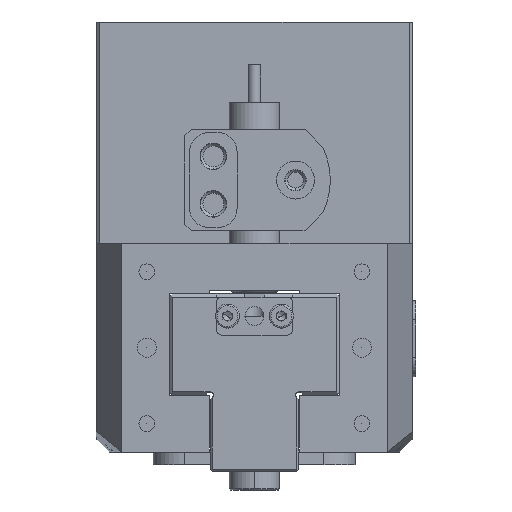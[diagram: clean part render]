
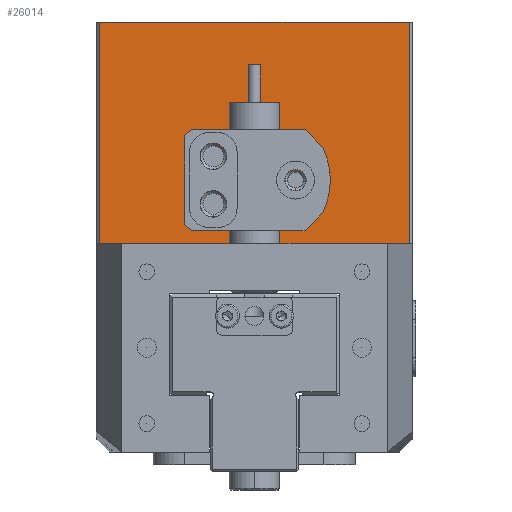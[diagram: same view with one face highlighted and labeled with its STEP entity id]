
A CAD part, left-side view. The second image highlights one B-rep face of the part: STEP entity #26014.
In plain terms, the highlighted planar face has unit normal (-1, 0, 0).
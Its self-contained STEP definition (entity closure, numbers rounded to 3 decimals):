
#138 = DIRECTION ( 'NONE',  ( 0., 0., -1. ) ) ;
#418 = EDGE_CURVE ( 'NONE', #36613, #2741, #7262, .T. ) ;
#594 = DIRECTION ( 'NONE',  ( 0., 0., -1. ) ) ;
#1129 = DIRECTION ( 'NONE',  ( 0., 0., -1. ) ) ;
#1139 = CIRCLE ( 'NONE', #9408, 1.65 ) ;
#1883 = CIRCLE ( 'NONE', #26012, 2.05 ) ;
#1926 = EDGE_CURVE ( 'NONE', #2741, #36613, #42478, .T. ) ;
#2741 = VERTEX_POINT ( 'NONE', #38311 ) ;
#2971 = DIRECTION ( 'NONE',  ( 0., 1., 0. ) ) ;
#3236 = EDGE_LOOP ( 'NONE', ( #8144, #25897, #28199, #11176 ) ) ;
#3382 = CARTESIAN_POINT ( 'NONE',  ( -51.408, 34.635, 93.148 ) ) ;
#4149 = PLANE ( 'NONE',  #6853 ) ;
#4474 = VERTEX_POINT ( 'NONE', #20287 ) ;
#4978 = DIRECTION ( 'NONE',  ( 1., 0., 0. ) ) ;
#5281 = ORIENTED_EDGE ( 'NONE', *, *, #1926, .T. ) ;
#5319 = CARTESIAN_POINT ( 'NONE',  ( -51.408, 3.635, 104.798 ) ) ;
#6084 = ORIENTED_EDGE ( 'NONE', *, *, #29084, .T. ) ;
#6138 = VERTEX_POINT ( 'NONE', #3382 ) ;
#6844 = VERTEX_POINT ( 'NONE', #8788 ) ;
#6853 = AXIS2_PLACEMENT_3D ( 'NONE', #8232, #17521, #1129 ) ;
#7262 = CIRCLE ( 'NONE', #9353, 2.05 ) ;
#7383 = DIRECTION ( 'NONE',  ( 0., 0., -1. ) ) ;
#7397 = FACE_BOUND ( 'NONE', #32975, .T. ) ;
#7463 = ORIENTED_EDGE ( 'NONE', *, *, #418, .T. ) ;
#7816 = LINE ( 'NONE', #20970, #17800 ) ;
#7849 = CARTESIAN_POINT ( 'NONE',  ( -51.408, 34.635, 93.148 ) ) ;
#7879 = LINE ( 'NONE', #11331, #20624 ) ;
#8144 = ORIENTED_EDGE ( 'NONE', *, *, #33831, .T. ) ;
#8232 = CARTESIAN_POINT ( 'NONE',  ( -51.408, -14.865, 93.148 ) ) ;
#8306 = ORIENTED_EDGE ( 'NONE', *, *, #30345, .T. ) ;
#8788 = CARTESIAN_POINT ( 'NONE',  ( -51.408, 16.635, 108.948 ) ) ;
#8838 = DIRECTION ( 'NONE',  ( 0., 0., -1. ) ) ;
#8859 = CARTESIAN_POINT ( 'NONE',  ( -51.408, 16.635, 106.898 ) ) ;
#9002 = VERTEX_POINT ( 'NONE', #5319 ) ;
#9353 = AXIS2_PLACEMENT_3D ( 'NONE', #19136, #19776, #138 ) ;
#9408 = AXIS2_PLACEMENT_3D ( 'NONE', #17090, #36935, #7383 ) ;
#10179 = VERTEX_POINT ( 'NONE', #31917 ) ;
#10639 = DIRECTION ( 'NONE',  ( 0., 0., 1. ) ) ;
#11176 = ORIENTED_EDGE ( 'NONE', *, *, #24862, .T. ) ;
#11331 = CARTESIAN_POINT ( 'NONE',  ( -51.408, 10.135, 128.148 ) ) ;
#11554 = CARTESIAN_POINT ( 'NONE',  ( -51.408, -14.365, 128.148 ) ) ;
#12084 = DIRECTION ( 'NONE',  ( 0., 0., -1. ) ) ;
#13297 = VERTEX_POINT ( 'NONE', #11554 ) ;
#14916 = DIRECTION ( 'NONE',  ( 0., 0., -1. ) ) ;
#15755 = VERTEX_POINT ( 'NONE', #30292 ) ;
#16972 = VECTOR ( 'NONE', #2971, 1000. ) ;
#17090 = CARTESIAN_POINT ( 'NONE',  ( -51.408, 3.635, 103.148 ) ) ;
#17521 = DIRECTION ( 'NONE',  ( 1., 0., 0. ) ) ;
#17800 = VECTOR ( 'NONE', #10639, 1000. ) ;
#18130 = CIRCLE ( 'NONE', #32608, 2.05 ) ;
#19136 = CARTESIAN_POINT ( 'NONE',  ( -51.408, 16.635, 99.398 ) ) ;
#19776 = DIRECTION ( 'NONE',  ( 1., 0., 0. ) ) ;
#19952 = EDGE_CURVE ( 'NONE', #4474, #6844, #18130, .T. ) ;
#20287 = CARTESIAN_POINT ( 'NONE',  ( -51.408, 16.635, 104.848 ) ) ;
#20464 = CARTESIAN_POINT ( 'NONE',  ( -51.408, 16.635, 97.348 ) ) ;
#20615 = EDGE_LOOP ( 'NONE', ( #8306, #24169 ) ) ;
#20624 = VECTOR ( 'NONE', #34607, 1000. ) ;
#20970 = CARTESIAN_POINT ( 'NONE',  ( -51.408, -14.365, 128.148 ) ) ;
#22922 = CIRCLE ( 'NONE', #40833, 1.65 ) ;
#23032 = LINE ( 'NONE', #29726, #16972 ) ;
#24169 = ORIENTED_EDGE ( 'NONE', *, *, #19952, .T. ) ;
#24199 = FACE_OUTER_BOUND ( 'NONE', #3236, .T. ) ;
#24380 = VECTOR ( 'NONE', #36982, 1000. ) ;
#24615 = FACE_BOUND ( 'NONE', #20615, .T. ) ;
#24801 = DIRECTION ( 'NONE',  ( 1., 0., 0. ) ) ;
#24862 = EDGE_CURVE ( 'NONE', #30735, #13297, #7816, .T. ) ;
#25897 = ORIENTED_EDGE ( 'NONE', *, *, #39852, .T. ) ;
#26012 = AXIS2_PLACEMENT_3D ( 'NONE', #8859, #24801, #12084 ) ;
#26014 = ADVANCED_FACE ( 'NONE', ( #27235, #24615, #7397, #24199 ), #4149, .F. ) ;
#27235 = FACE_BOUND ( 'NONE', #32584, .T. ) ;
#28199 = ORIENTED_EDGE ( 'NONE', *, *, #28729, .F. ) ;
#28729 = EDGE_CURVE ( 'NONE', #30735, #6138, #23032, .T. ) ;
#29084 = EDGE_CURVE ( 'NONE', #9002, #15755, #1139, .T. ) ;
#29726 = CARTESIAN_POINT ( 'NONE',  ( -51.408, -14.865, 93.148 ) ) ;
#30292 = CARTESIAN_POINT ( 'NONE',  ( -51.408, 3.635, 101.498 ) ) ;
#30345 = EDGE_CURVE ( 'NONE', #6844, #4474, #1883, .T. ) ;
#30735 = VERTEX_POINT ( 'NONE', #41751 ) ;
#31091 = CARTESIAN_POINT ( 'NONE',  ( -51.408, 16.635, 99.398 ) ) ;
#31917 = CARTESIAN_POINT ( 'NONE',  ( -51.408, 34.635, 128.148 ) ) ;
#32584 = EDGE_LOOP ( 'NONE', ( #6084, #38287 ) ) ;
#32608 = AXIS2_PLACEMENT_3D ( 'NONE', #41619, #41186, #8838 ) ;
#32975 = EDGE_LOOP ( 'NONE', ( #5281, #7463 ) ) ;
#33785 = CARTESIAN_POINT ( 'NONE',  ( -51.408, 3.635, 103.148 ) ) ;
#33831 = EDGE_CURVE ( 'NONE', #13297, #10179, #7879, .T. ) ;
#34607 = DIRECTION ( 'NONE',  ( 0., 1., 0. ) ) ;
#36613 = VERTEX_POINT ( 'NONE', #20464 ) ;
#36935 = DIRECTION ( 'NONE',  ( 1., 0., 0. ) ) ;
#36982 = DIRECTION ( 'NONE',  ( 0., 0., -1. ) ) ;
#37003 = AXIS2_PLACEMENT_3D ( 'NONE', #31091, #4978, #14916 ) ;
#37388 = LINE ( 'NONE', #7849, #24380 ) ;
#37831 = EDGE_CURVE ( 'NONE', #15755, #9002, #22922, .T. ) ;
#38287 = ORIENTED_EDGE ( 'NONE', *, *, #37831, .T. ) ;
#38311 = CARTESIAN_POINT ( 'NONE',  ( -51.408, 16.635, 101.448 ) ) ;
#39852 = EDGE_CURVE ( 'NONE', #10179, #6138, #37388, .T. ) ;
#40486 = DIRECTION ( 'NONE',  ( 1., 0., 0. ) ) ;
#40833 = AXIS2_PLACEMENT_3D ( 'NONE', #33785, #40486, #594 ) ;
#41186 = DIRECTION ( 'NONE',  ( 1., 0., 0. ) ) ;
#41619 = CARTESIAN_POINT ( 'NONE',  ( -51.408, 16.635, 106.898 ) ) ;
#41751 = CARTESIAN_POINT ( 'NONE',  ( -51.408, -14.365, 93.148 ) ) ;
#42478 = CIRCLE ( 'NONE', #37003, 2.05 ) ;
